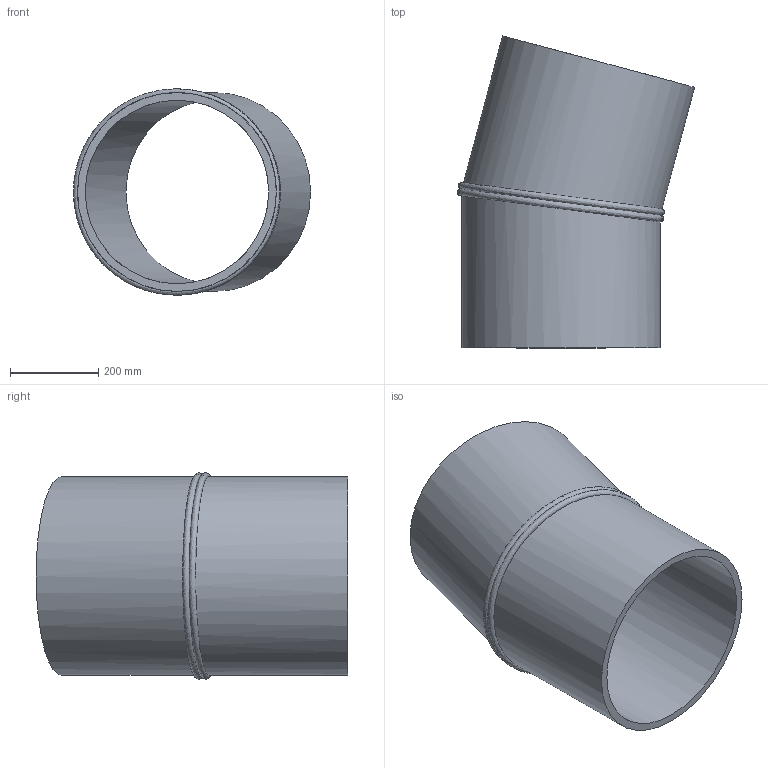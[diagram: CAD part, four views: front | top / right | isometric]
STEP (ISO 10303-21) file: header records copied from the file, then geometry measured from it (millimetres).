
FILE_DESCRIPTION(/* description */ ('Unknown'),/* implementation_level */ '2;1');
FILE_NAME(/* name */ 'Curva 15° a settore DE450 SDR26',/* time_stamp */ '2022-07-25T11:01:37+02:00',/* author */ ('Unknown'),/* organization */ ('Unknown'),/* preprocessor_version */ 'ST-DEVELOPER v18.102',/* originating_system */ 'Solid Edge',/* authorisation */ 'Unknown');
FILE_SCHEMA (('AUTOMOTIVE_DESIGN {1 0 10303 214 3 1 1}'));
Length unit declared in the file: millimetre
Products named in the file (2): Curva 15° a settore DE450 SDR26; Tubo x Gomito 15° DE450 SDR26
Assembly tree (2 placements, depth 2):
  Curva 15° a settore DE450 SDR26
    Tubo x Gomito 15° DE450 SDR26  x2
Bounding box: 537.06 x 706.25 x 466.86 mm (x, y, z)
Volume: 15713717.6 mm3; surface area: 1918801 mm2
Topology: 2 solids, 2 shells, 10 faces, 20 edges, 14 vertices
Faces by surface type: cylinder 4, plane 4, bspline 2
Full cylindrical faces by diameter (mm): 415.6 x2, 450 x2
Entity records: 767 total; most frequent: CARTESIAN_POINT 630, DIRECTION 20, ORIENTED_EDGE 10, EDGE_LOOP 10, FACE_BOUND 10, AXIS2_PLACEMENT_3D 10, EDGE_CURVE 5, VERTEX_POINT 5
